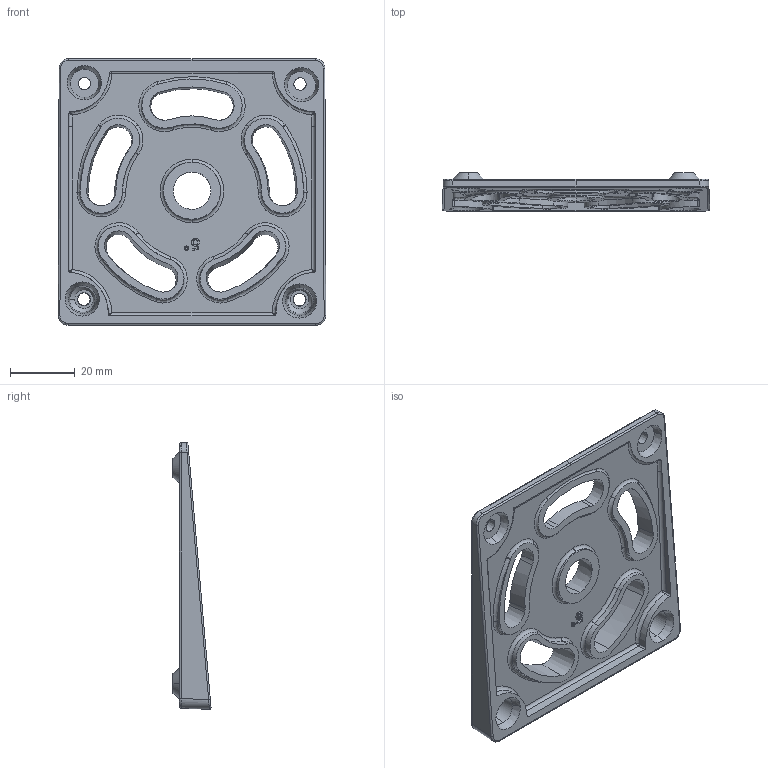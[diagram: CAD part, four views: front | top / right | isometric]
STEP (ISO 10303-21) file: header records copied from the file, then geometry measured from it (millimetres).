
FILE_DESCRIPTION (( 'STEP AP203' ), '1' );
FILE_NAME ('06.11.145-0 Angle Wedge for RIMA.STEP', '2024-12-18T11:07:59', ( '' ), ( '' ), 'SwSTEP 2.0', 'SolidWorks 2024', '' );
FILE_SCHEMA (( 'CONFIG_CONTROL_DESIGN' ));
Length unit declared in the file: millimetre
Products named in the file (1): 06.11.145-0 Angle Wedge for RIMA
Bounding box: 82.63 x 11.75 x 82.4 mm (x, y, z)
Surface area: 17785.1 mm2 (no closed solid volume)
Topology: 0 solids, 1 shells, 330 faces, 855 edges, 530 vertices
Faces by surface type: bspline 188, cone 56, plane 52, cylinder 26, torus 8
Entity records: 25720 total; most frequent: CARTESIAN_POINT 19161, ORIENTED_EDGE 1648, DIRECTION 848, EDGE_CURVE 839, VERTEX_POINT 530, EDGE_LOOP 376, B_SPLINE_CURVE_WITH_KNOTS 368, FACE_OUTER_BOUND 330
